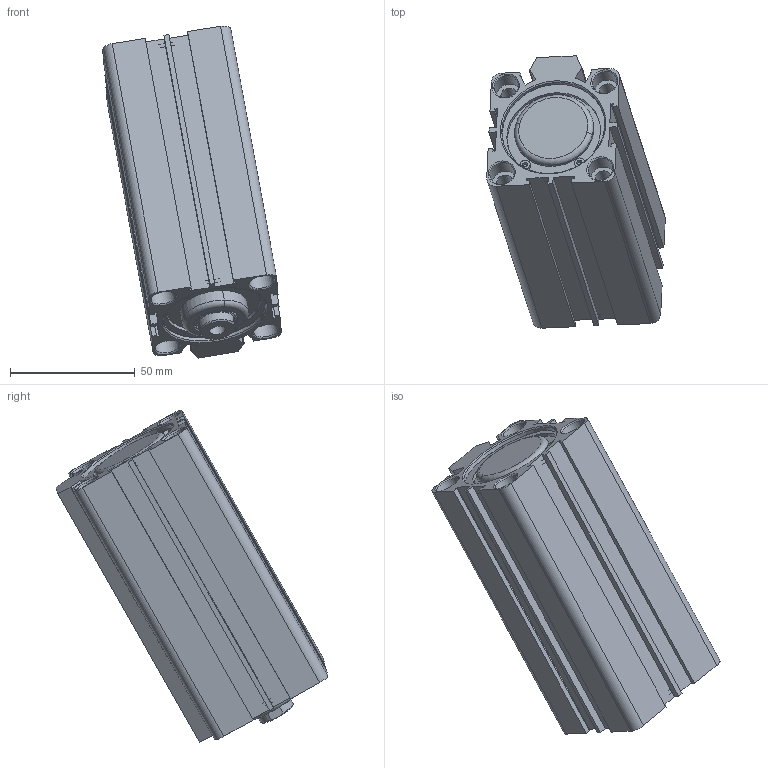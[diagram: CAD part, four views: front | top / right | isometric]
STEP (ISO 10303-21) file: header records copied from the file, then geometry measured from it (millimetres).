
FILE_DESCRIPTION (( 'STEP AP214' ), '1' );
FILE_NAME ('SDA_40_80_WEB.STEP', '2021-01-22T12:16:45', ( 'cagdas' ), ( '' ), 'SwSTEP 2.0', 'SolidWorks 2021', '' );
FILE_SCHEMA (( 'AUTOMOTIVE_DESIGN' ));
Length unit declared in the file: millimetre
Products named in the file (8): SDA40SEGMAN; SDA_40_80_WEB; SDA40ARKAKAPAK; SDA40ONKAPAK; SDA40PAPYUZUK; SDA_40_BORU_WEB; 16_MIL_WEB; SDA40BOGAZKECESI
Assembly tree (8 placements, depth 2):
  SDA_40_80_WEB
    SDA40ARKAKAPAK
    SDA40SEGMAN  x2
    SDA40ONKAPAK
    SDA40PAPYUZUK
    SDA40BOGAZKECESI
    SDA_40_BORU_WEB
    16_MIL_WEB
Bounding box: 71.5 x 108.91 x 132.96 mm (x, y, z)
Volume: 158268.3 mm3; surface area: 76289.8 mm2
Topology: 8 solids, 8 shells, 474 faces, 1175 edges, 758 vertices
Faces by surface type: plane 185, cylinder 128, bspline 85, cone 72, torus 4
Entity records: 19871 total; most frequent: CARTESIAN_POINT 7117, ORIENTED_EDGE 2254, DIRECTION 2025, EDGE_CURVE 1127, VERTEX_POINT 726, AXIS2_PLACEMENT_3D 698, VECTOR 629, LINE 629
